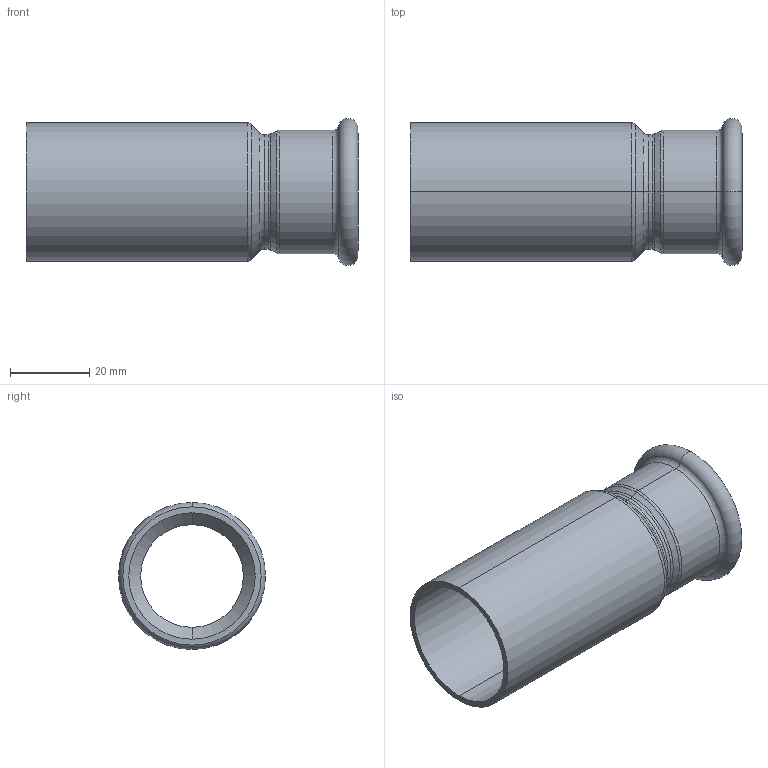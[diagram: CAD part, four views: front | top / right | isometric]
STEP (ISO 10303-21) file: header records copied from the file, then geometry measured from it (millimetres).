
FILE_DESCRIPTION (( 'STEP AP214' ), '1' );
FILE_NAME ('R35280B.STEP', '2025-08-18T00:15:21', ( '' ), ( '' ), 'SwSTEP 2.0', 'SolidWorks 2020', '' );
FILE_SCHEMA (( 'AUTOMOTIVE_DESIGN' ));
Length unit declared in the file: millimetre
Products named in the file (1): R35280B
Bounding box: 84 x 37.2 x 37.2 mm (x, y, z)
Volume: 14003.5 mm3; surface area: 18409.4 mm2
Topology: 1 solids, 1 shells, 43 faces, 86 edges, 46 vertices
Faces by surface type: torus 16, cylinder 14, cone 10, plane 3
Entity records: 1192 total; most frequent: DIRECTION 236, CARTESIAN_POINT 176, ORIENTED_EDGE 172, AXIS2_PLACEMENT_3D 106, EDGE_CURVE 86, CIRCLE 62, VERTEX_POINT 46, EDGE_LOOP 46
